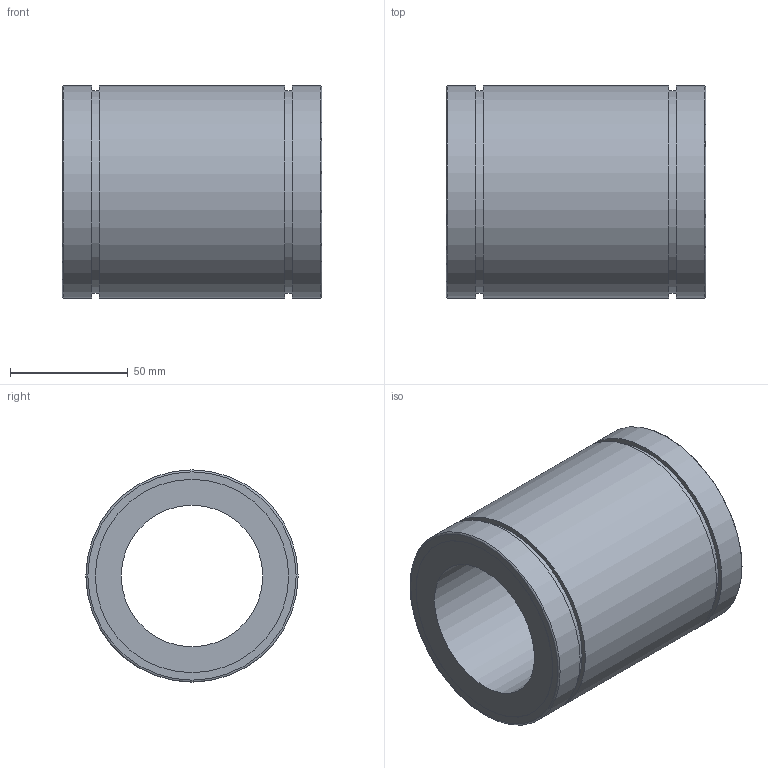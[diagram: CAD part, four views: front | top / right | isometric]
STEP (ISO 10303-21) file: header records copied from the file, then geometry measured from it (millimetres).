
FILE_DESCRIPTION((''),'2;1');
FILE_NAME('D:\製品 (図面)\カタログ用3D\リニアベアリング関連\STEP形式\L\L60.stp','2010-06-02T17:34:27',('Tsuchiya'),(''),'Autodesk Inventor 10','Autodesk Inventor 10','');
FILE_SCHEMA(('AUTOMOTIVE_DESIGN { 1 0 10303 214 1 1 1 1 }'));
Length unit declared in the file: millimetre
Products named in the file (1): L60
Bounding box: 110 x 90 x 90 mm (x, y, z)
Volume: 384731.5 mm3; surface area: 60877.1 mm2
Topology: 1 solids, 1 shells, 18 faces, 28 edges, 18 vertices
Faces by surface type: cylinder 8, plane 8, torus 2
Full cylindrical faces by diameter (mm): 60 x1, 82 x2, 86 x2, 90 x3
Entity records: 391 total; most frequent: DIRECTION 74, CARTESIAN_POINT 55, AXIS2_PLACEMENT_3D 37, ORIENTED_EDGE 36, EDGE_LOOP 36, VERTEX_POINT 18, CIRCLE 18, EDGE_CURVE 18
